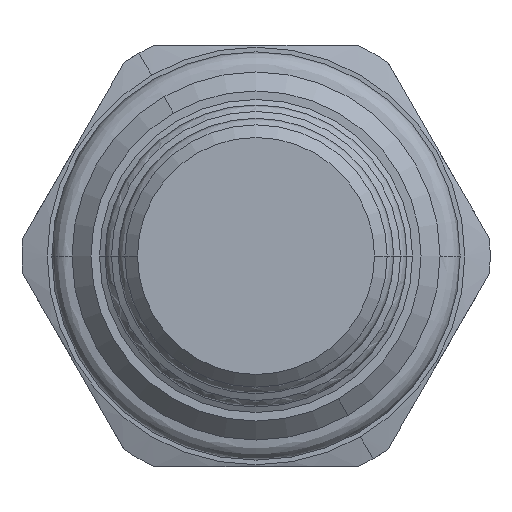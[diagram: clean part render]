
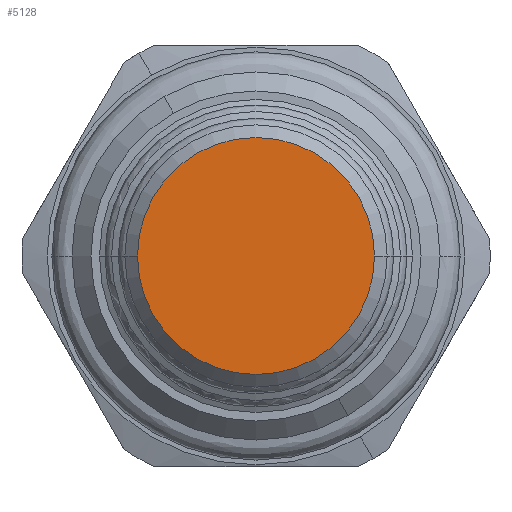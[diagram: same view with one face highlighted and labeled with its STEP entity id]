
A CAD part, front view. The second image highlights one B-rep face of the part: STEP entity #5128.
In plain terms, the highlighted planar face has unit normal (0, -1, 0).
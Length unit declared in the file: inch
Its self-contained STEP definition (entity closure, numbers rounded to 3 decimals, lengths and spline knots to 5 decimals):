
#2252=CARTESIAN_POINT('',(0.,-1.81277,0.));
#2253=DIRECTION('',(0.,-1.,0.));
#2254=DIRECTION('',(-1.,0.,0.));
#2255=AXIS2_PLACEMENT_3D('',#2252,#2253,#2254);
#2270=CARTESIAN_POINT('',(0.,-1.81277,0.));
#2271=DIRECTION('',(0.,1.,0.));
#2272=DIRECTION('',(-1.,0.,0.));
#2273=AXIS2_PLACEMENT_3D('',#2270,#2271,#2272);
#2683=CARTESIAN_POINT('',(-0.281,-1.81277,0.));
#2684=CARTESIAN_POINT('',(0.281,-1.81277,0.));
#2685=VERTEX_POINT('',#2683);
#2686=VERTEX_POINT('',#2684);
#5118=CARTESIAN_POINT('',(0.,-1.81277,0.));
#5119=DIRECTION('',(0.,-1.,0.));
#5120=DIRECTION('',(-1.,0.,0.));
#5121=AXIS2_PLACEMENT_3D('',#5118,#5119,#5120);
#5122=PLANE('',#5121);
#5123=ORIENTED_EDGE('',*,*,#5108,.F.);
#5125=ORIENTED_EDGE('',*,*,#5124,.T.);
#5126=EDGE_LOOP('',(#5123,#5125));
#5127=FACE_OUTER_BOUND('',#5126,.F.);
#5128=ADVANCED_FACE('',(#5127),#5122,.T.);
#2256=CIRCLE('',#2255,0.281);
#2274=CIRCLE('',#2273,0.281);
#5108=EDGE_CURVE('',#2685,#2686,#2256,.T.);
#5124=EDGE_CURVE('',#2685,#2686,#2274,.T.);
